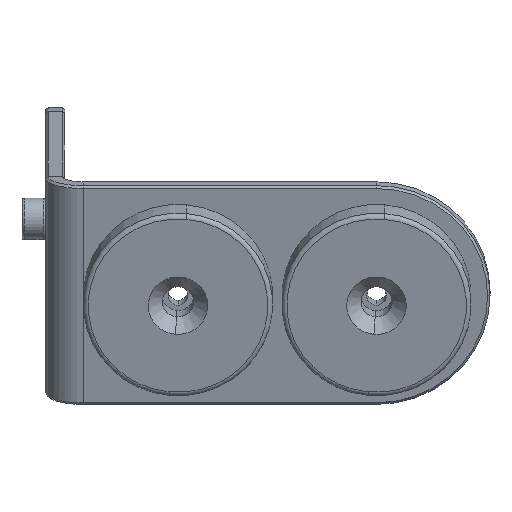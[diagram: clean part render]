
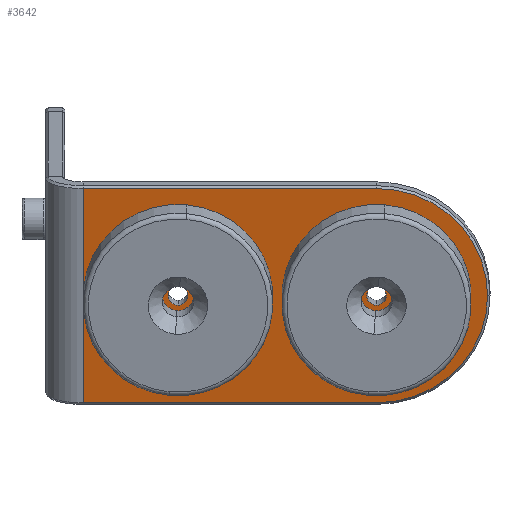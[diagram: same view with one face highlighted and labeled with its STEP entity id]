
A CAD part, top view. The second image highlights one B-rep face of the part: STEP entity #3642.
In plain terms, the highlighted planar face has unit normal (0, -0.266, 0.964).
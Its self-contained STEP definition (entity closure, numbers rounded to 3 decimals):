
#177 = AXIS2_PLACEMENT_3D ( 'NONE', #4366, #4355, #4323 ) ;
#212 = CIRCLE ( 'NONE', #4880, 23.5 ) ;
#550 = ORIENTED_EDGE ( 'NONE', *, *, #2978, .F. ) ;
#556 = AXIS2_PLACEMENT_3D ( 'NONE', #4501, #4810, #4789 ) ;
#580 = EDGE_CURVE ( 'NONE', #3705, #2133, #5181, .T. ) ;
#600 = CIRCLE ( 'NONE', #5164, 2.1 ) ;
#678 = CARTESIAN_POINT ( 'NONE',  ( -1.636, -35.707, 51.586 ) ) ;
#744 = VERTEX_POINT ( 'NONE', #2461 ) ;
#794 = VERTEX_POINT ( 'NONE', #1653 ) ;
#852 = VERTEX_POINT ( 'NONE', #1468 ) ;
#853 = DIRECTION ( 'NONE',  ( 0., 0.964, 0.266 ) ) ;
#933 = CARTESIAN_POINT ( 'NONE',  ( -63.636, 10.081, 64.223 ) ) ;
#994 = CARTESIAN_POINT ( 'NONE',  ( -1.636, 9.599, 64.09 ) ) ;
#1037 = EDGE_LOOP ( 'NONE', ( #2635, #5069 ) ) ;
#1082 = AXIS2_PLACEMENT_3D ( 'NONE', #3059, #3049, #3039 ) ;
#1084 = LINE ( 'NONE', #1365, #4286 ) ;
#1105 = CIRCLE ( 'NONE', #177, 2.1 ) ;
#1211 = DIRECTION ( 'NONE',  ( 0., -0.964, -0.266 ) ) ;
#1220 = DIRECTION ( 'NONE',  ( 0., -0.266, 0.964 ) ) ;
#1230 = CARTESIAN_POINT ( 'NONE',  ( -1.636, -13.054, 57.838 ) ) ;
#1343 = DIRECTION ( 'NONE',  ( -1., 0., 0. ) ) ;
#1349 = VERTEX_POINT ( 'NONE', #3663 ) ;
#1362 = ORIENTED_EDGE ( 'NONE', *, *, #3877, .T. ) ;
#1365 = CARTESIAN_POINT ( 'NONE',  ( 22.364, 9.599, 64.09 ) ) ;
#1410 = VECTOR ( 'NONE', #853, 1000. ) ;
#1468 = CARTESIAN_POINT ( 'NONE',  ( -43.636, -15.078, 57.279 ) ) ;
#1639 = DIRECTION ( 'NONE',  ( 0., -0.964, -0.266 ) ) ;
#1653 = CARTESIAN_POINT ( 'NONE',  ( -1.636, -11.029, 58.396 ) ) ;
#1658 = DIRECTION ( 'NONE',  ( 0., -0.266, 0.964 ) ) ;
#1666 = EDGE_LOOP ( 'NONE', ( #2782, #550 ) ) ;
#1677 = CARTESIAN_POINT ( 'NONE',  ( -1.636, -13.054, 57.838 ) ) ;
#1778 = CIRCLE ( 'NONE', #2402, 2.1 ) ;
#1912 = CARTESIAN_POINT ( 'NONE',  ( -63.636, 9.599, 64.09 ) ) ;
#2133 = VERTEX_POINT ( 'NONE', #678 ) ;
#2193 = ORIENTED_EDGE ( 'NONE', *, *, #580, .T. ) ;
#2402 = AXIS2_PLACEMENT_3D ( 'NONE', #4897, #4884, #4864 ) ;
#2421 = DIRECTION ( 'NONE',  ( 0., -0.964, -0.266 ) ) ;
#2424 = DIRECTION ( 'NONE',  ( 0., -0.266, 0.964 ) ) ;
#2461 = CARTESIAN_POINT ( 'NONE',  ( -1.636, -15.078, 57.279 ) ) ;
#2482 = EDGE_CURVE ( 'NONE', #794, #744, #1105, .T. ) ;
#2635 = ORIENTED_EDGE ( 'NONE', *, *, #2482, .F. ) ;
#2782 = ORIENTED_EDGE ( 'NONE', *, *, #5265, .F. ) ;
#2918 = CARTESIAN_POINT ( 'NONE',  ( -63.636, -35.707, 51.586 ) ) ;
#2978 = EDGE_CURVE ( 'NONE', #852, #1349, #600, .T. ) ;
#3038 = ORIENTED_EDGE ( 'NONE', *, *, #4601, .T. ) ;
#3039 = DIRECTION ( 'NONE',  ( 0., -0.964, -0.266 ) ) ;
#3049 = DIRECTION ( 'NONE',  ( 0., -0.266, 0.964 ) ) ;
#3052 = CARTESIAN_POINT ( 'NONE',  ( -43.636, -13.054, 57.838 ) ) ;
#3059 = CARTESIAN_POINT ( 'NONE',  ( 22.364, 10.081, 64.223 ) ) ;
#3140 = PLANE ( 'NONE',  #1082 ) ;
#3171 = ORIENTED_EDGE ( 'NONE', *, *, #5099, .T. ) ;
#3232 = VERTEX_POINT ( 'NONE', #3802 ) ;
#3599 = DIRECTION ( 'NONE',  ( 1., 0., 0. ) ) ;
#3642 = ADVANCED_FACE ( 'NONE', ( #5068, #5275, #4458 ), #3140, .T. ) ;
#3658 = CARTESIAN_POINT ( 'NONE',  ( 22.364, -35.707, 51.586 ) ) ;
#3663 = CARTESIAN_POINT ( 'NONE',  ( -43.636, -11.029, 58.396 ) ) ;
#3705 = VERTEX_POINT ( 'NONE', #2918 ) ;
#3802 = CARTESIAN_POINT ( 'NONE',  ( 21.864, -13.054, 57.838 ) ) ;
#3877 = EDGE_CURVE ( 'NONE', #2133, #3232, #4118, .T. ) ;
#4063 = VERTEX_POINT ( 'NONE', #1912 ) ;
#4074 = CIRCLE ( 'NONE', #556, 2.1 ) ;
#4118 = CIRCLE ( 'NONE', #5167, 23.5 ) ;
#4286 = VECTOR ( 'NONE', #1343, 1000. ) ;
#4304 = VERTEX_POINT ( 'NONE', #994 ) ;
#4323 = DIRECTION ( 'NONE',  ( 0., -0.964, -0.266 ) ) ;
#4355 = DIRECTION ( 'NONE',  ( 0., -0.266, 0.964 ) ) ;
#4366 = CARTESIAN_POINT ( 'NONE',  ( -1.636, -13.054, 57.838 ) ) ;
#4458 = FACE_OUTER_BOUND ( 'NONE', #4856, .T. ) ;
#4501 = CARTESIAN_POINT ( 'NONE',  ( -43.636, -13.054, 57.838 ) ) ;
#4601 = EDGE_CURVE ( 'NONE', #3232, #4304, #212, .T. ) ;
#4768 = LINE ( 'NONE', #933, #1410 ) ;
#4789 = DIRECTION ( 'NONE',  ( 0., -0.964, -0.266 ) ) ;
#4810 = DIRECTION ( 'NONE',  ( 0., -0.266, 0.964 ) ) ;
#4856 = EDGE_LOOP ( 'NONE', ( #3038, #3171, #5319, #2193, #1362 ) ) ;
#4864 = DIRECTION ( 'NONE',  ( 0., -0.964, -0.266 ) ) ;
#4873 = EDGE_CURVE ( 'NONE', #3705, #4063, #4768, .T. ) ;
#4880 = AXIS2_PLACEMENT_3D ( 'NONE', #1677, #1658, #1639 ) ;
#4884 = DIRECTION ( 'NONE',  ( 0., -0.266, 0.964 ) ) ;
#4897 = CARTESIAN_POINT ( 'NONE',  ( -1.636, -13.054, 57.838 ) ) ;
#4927 = EDGE_CURVE ( 'NONE', #744, #794, #1778, .T. ) ;
#5068 = FACE_BOUND ( 'NONE', #1666, .T. ) ;
#5069 = ORIENTED_EDGE ( 'NONE', *, *, #4927, .F. ) ;
#5099 = EDGE_CURVE ( 'NONE', #4304, #4063, #1084, .T. ) ;
#5164 = AXIS2_PLACEMENT_3D ( 'NONE', #3052, #2424, #2421 ) ;
#5167 = AXIS2_PLACEMENT_3D ( 'NONE', #1230, #1220, #1211 ) ;
#5172 = VECTOR ( 'NONE', #3599, 1000. ) ;
#5181 = LINE ( 'NONE', #3658, #5172 ) ;
#5265 = EDGE_CURVE ( 'NONE', #1349, #852, #4074, .T. ) ;
#5275 = FACE_BOUND ( 'NONE', #1037, .T. ) ;
#5319 = ORIENTED_EDGE ( 'NONE', *, *, #4873, .F. ) ;
